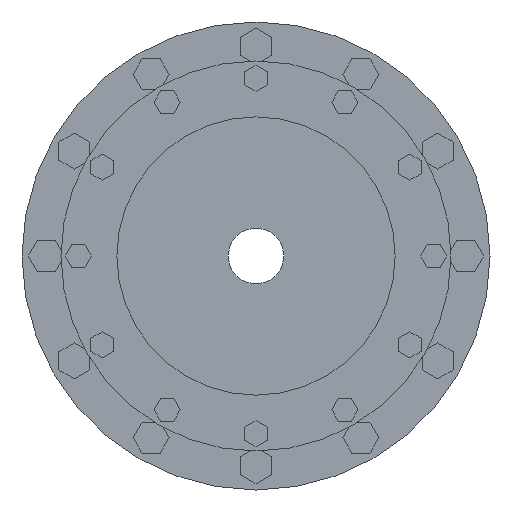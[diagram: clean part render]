
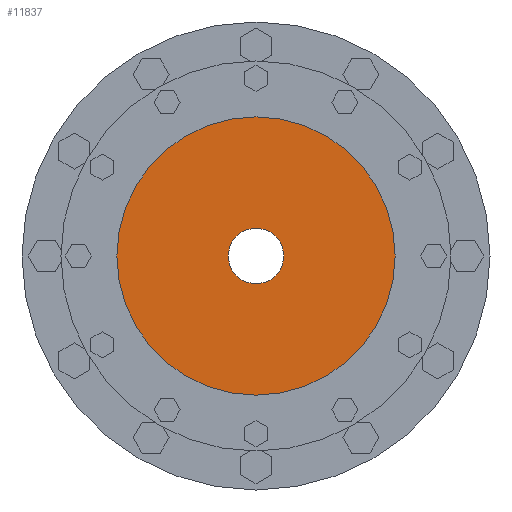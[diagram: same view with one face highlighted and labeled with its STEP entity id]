
A CAD part, left-side view. The second image highlights one B-rep face of the part: STEP entity #11837.
In plain terms, the highlighted planar face has unit normal (-1, 0, 0) as drawn and (1, 0, 0) by its records, which use the part's own axes.
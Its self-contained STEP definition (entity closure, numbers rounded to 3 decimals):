
#11661=CARTESIAN_POINT('',(-4.,0.,0.));
#11662=DIRECTION('',(1.,0.,0.));
#11663=DIRECTION('',(0.,1.,0.));
#11664=AXIS2_PLACEMENT_3D('',#11661,#11662,#11663);
#11671=CARTESIAN_POINT('',(-4.,0.,0.));
#11672=DIRECTION('',(-1.,0.,0.));
#11673=DIRECTION('',(0.,1.,0.));
#11674=AXIS2_PLACEMENT_3D('',#11671,#11672,#11673);
#11676=CARTESIAN_POINT('',(-4.,0.,0.));
#11677=DIRECTION('',(1.,0.,0.));
#11678=DIRECTION('',(0.,1.,0.));
#11679=AXIS2_PLACEMENT_3D('',#11676,#11677,#11678);
#11755=CARTESIAN_POINT('',(-4.,0.,0.));
#11756=DIRECTION('',(1.,0.,0.));
#11757=DIRECTION('',(0.,-1.,0.));
#11758=AXIS2_PLACEMENT_3D('',#11755,#11756,#11757);
#11782=CARTESIAN_POINT('',(-4.,80.25,0.));
#11784=VERTEX_POINT('',#11782);
#11786=CARTESIAN_POINT('',(-4.,-80.25,0.));
#11788=VERTEX_POINT('',#11786);
#11793=CARTESIAN_POINT('',(-4.,16.,0.));
#11794=CARTESIAN_POINT('',(-4.,-16.,0.));
#11795=VERTEX_POINT('',#11793);
#11796=VERTEX_POINT('',#11794);
#11821=CARTESIAN_POINT('',(-4.,0.,0.));
#11822=DIRECTION('',(1.,0.,0.));
#11823=DIRECTION('',(0.,-1.,0.));
#11824=AXIS2_PLACEMENT_3D('',#11821,#11822,#11823);
#11825=PLANE('',#11824);
#11827=ORIENTED_EDGE('',*,*,#11826,.T.);
#11829=ORIENTED_EDGE('',*,*,#11828,.F.);
#11830=EDGE_LOOP('',(#11827,#11829));
#11831=FACE_OUTER_BOUND('',#11830,.F.);
#11832=ORIENTED_EDGE('',*,*,#11810,.T.);
#11834=ORIENTED_EDGE('',*,*,#11833,.T.);
#11835=EDGE_LOOP('',(#11832,#11834));
#11836=FACE_BOUND('',#11835,.F.);
#11837=ADVANCED_FACE('',(#11831,#11836),#11825,.T.);
#11665=CIRCLE('',#11664,16.);
#11675=CIRCLE('',#11674,80.25);
#11680=CIRCLE('',#11679,80.25);
#11759=CIRCLE('',#11758,16.);
#11810=EDGE_CURVE('',#11795,#11796,#11665,.T.);
#11826=EDGE_CURVE('',#11784,#11788,#11675,.T.);
#11828=EDGE_CURVE('',#11784,#11788,#11680,.T.);
#11833=EDGE_CURVE('',#11796,#11795,#11759,.T.);
